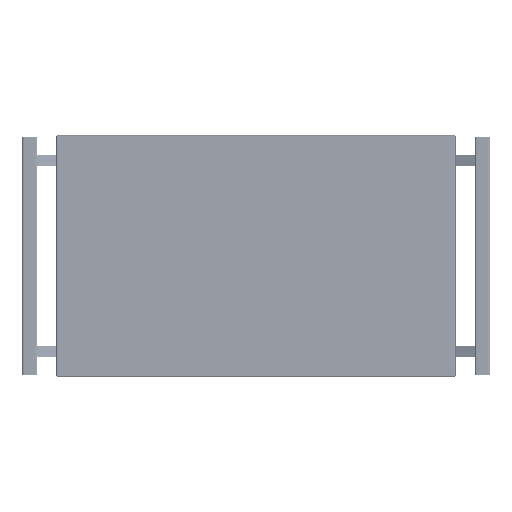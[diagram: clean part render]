
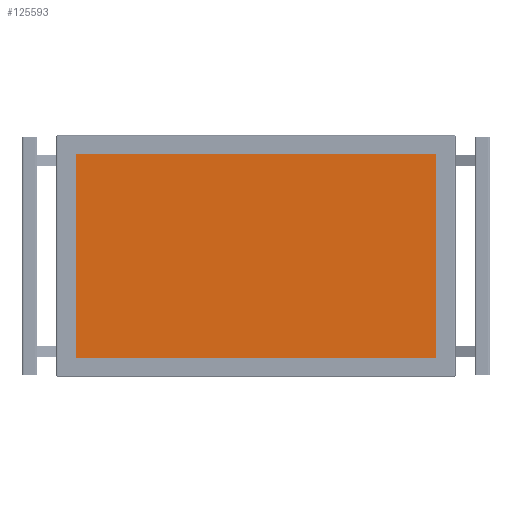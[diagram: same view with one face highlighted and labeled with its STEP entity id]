
A CAD part, top view. The second image highlights one B-rep face of the part: STEP entity #125593.
In plain terms, the highlighted planar face has unit normal (0, 0, 1) as drawn and (0, 1, 0) by its records, which use the part's own axes.
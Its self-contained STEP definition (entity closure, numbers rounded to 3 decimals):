
#292 = CARTESIAN_POINT ( 'NONE',  ( 238.92, 2.7, -134.655 ) ) ;
#15177 = DIRECTION ( 'NONE',  ( 0., 0., -1. ) ) ;
#23430 = EDGE_LOOP ( 'NONE', ( #57957, #119883, #173930, #176146 ) ) ;
#28860 = VECTOR ( 'NONE', #153871, 1000. ) ;
#29933 = VECTOR ( 'NONE', #15177, 1000. ) ;
#33704 = CARTESIAN_POINT ( 'NONE',  ( 238.92, 2.7, 134.655 ) ) ;
#40890 = AXIS2_PLACEMENT_3D ( 'NONE', #107440, #78039, #62357 ) ;
#47414 = LINE ( 'NONE', #136368, #148141 ) ;
#48685 = VERTEX_POINT ( 'NONE', #187502 ) ;
#50702 = FACE_OUTER_BOUND ( 'NONE', #23430, .T. ) ;
#57957 = ORIENTED_EDGE ( 'NONE', *, *, #158678, .T. ) ;
#61988 = DIRECTION ( 'NONE',  ( 0., 0., 1. ) ) ;
#62357 = DIRECTION ( 'NONE',  ( 1., 0., 0. ) ) ;
#67241 = CARTESIAN_POINT ( 'NONE',  ( -238.92, 2.7, 134.655 ) ) ;
#74540 = DIRECTION ( 'NONE',  ( -1., 0., 0. ) ) ;
#78039 = DIRECTION ( 'NONE',  ( 0., 1., 0. ) ) ;
#81088 = CARTESIAN_POINT ( 'NONE',  ( 238.92, 2.7, -134.655 ) ) ;
#92370 = LINE ( 'NONE', #33704, #29933 ) ;
#93232 = VERTEX_POINT ( 'NONE', #67241 ) ;
#103860 = VERTEX_POINT ( 'NONE', #132373 ) ;
#107064 = CARTESIAN_POINT ( 'NONE',  ( -238.92, 2.7, 134.655 ) ) ;
#107440 = CARTESIAN_POINT ( 'NONE',  ( 0., 2.7, 0. ) ) ;
#119883 = ORIENTED_EDGE ( 'NONE', *, *, #180945, .T. ) ;
#125593 = ADVANCED_FACE ( 'NONE', ( #50702 ), #153284, .T. ) ;
#132373 = CARTESIAN_POINT ( 'NONE',  ( -238.92, 2.7, -134.655 ) ) ;
#136368 = CARTESIAN_POINT ( 'NONE',  ( -238.92, 2.7, -134.655 ) ) ;
#139238 = LINE ( 'NONE', #107064, #28860 ) ;
#140243 = EDGE_CURVE ( 'NONE', #103860, #93232, #47414, .T. ) ;
#148141 = VECTOR ( 'NONE', #61988, 1000. ) ;
#153284 = PLANE ( 'NONE',  #40890 ) ;
#153871 = DIRECTION ( 'NONE',  ( 1., 0., 0. ) ) ;
#155662 = VERTEX_POINT ( 'NONE', #81088 ) ;
#158678 = EDGE_CURVE ( 'NONE', #93232, #48685, #139238, .T. ) ;
#164450 = LINE ( 'NONE', #292, #176875 ) ;
#173930 = ORIENTED_EDGE ( 'NONE', *, *, #189570, .T. ) ;
#176146 = ORIENTED_EDGE ( 'NONE', *, *, #140243, .T. ) ;
#176875 = VECTOR ( 'NONE', #74540, 1000. ) ;
#180945 = EDGE_CURVE ( 'NONE', #48685, #155662, #92370, .T. ) ;
#187502 = CARTESIAN_POINT ( 'NONE',  ( 238.92, 2.7, 134.655 ) ) ;
#189570 = EDGE_CURVE ( 'NONE', #155662, #103860, #164450, .T. ) ;
